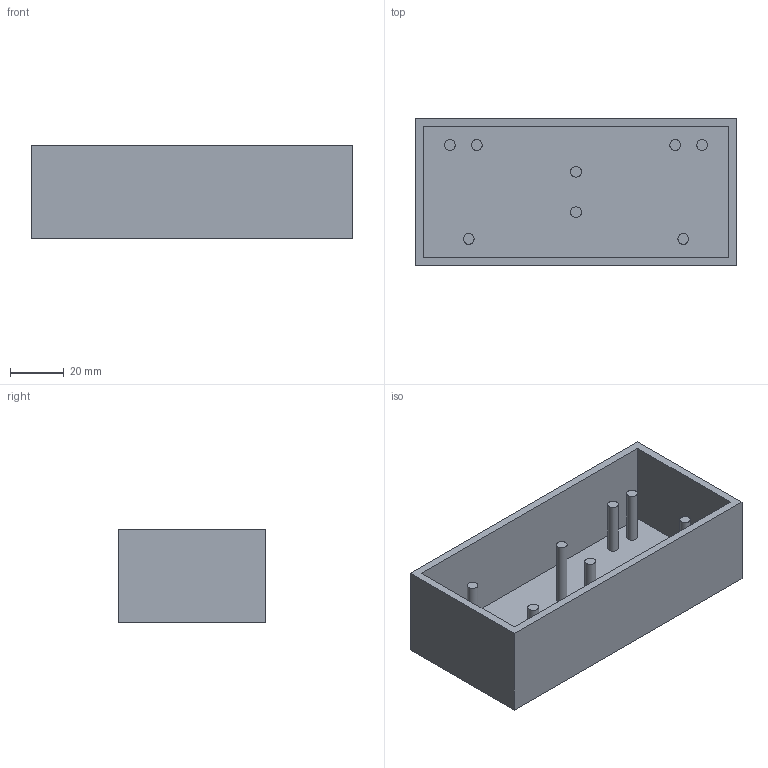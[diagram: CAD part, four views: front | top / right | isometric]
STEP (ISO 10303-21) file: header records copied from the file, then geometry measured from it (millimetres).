
FILE_DESCRIPTION((''),'1');
FILE_NAME('C:\Users\AcmeCo\Desktop\set\motion.stp','2019-03-16T20:09:32',(''),(''),'Spatial Interop R18','Kubotek KeyCreator V7.5.2 (9124)',' ');
FILE_SCHEMA(('CONFIG_CONTROL_DESIGN'));
Length unit declared in the file: millimetre
Bounding box: 120 x 55 x 35 mm (x, y, z)
Volume: 54610.5 mm3; surface area: 38244.5 mm2
Topology: 1 solids, 1 shells, 27 faces, 48 edges, 32 vertices
Faces by surface type: plane 19, cylinder 8
Full cylindrical faces by diameter (mm): 4 x8
Entity records: 662 total; most frequent: DIRECTION 112, CARTESIAN_POINT 100, ORIENTED_EDGE 80, AXIS2_PLACEMENT_3D 44, EDGE_LOOP 44, EDGE_CURVE 40, VERTEX_POINT 32, ADVANCED_FACE 27
